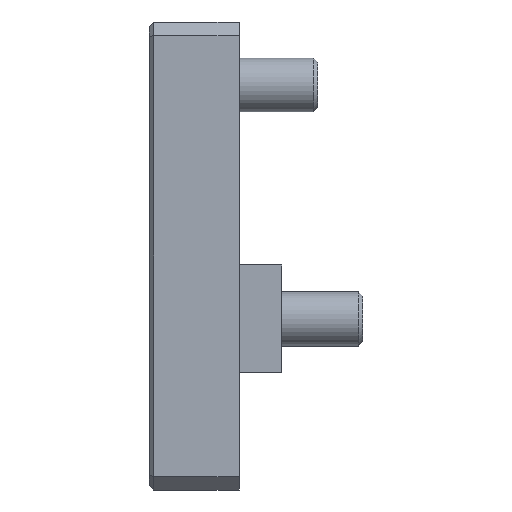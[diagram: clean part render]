
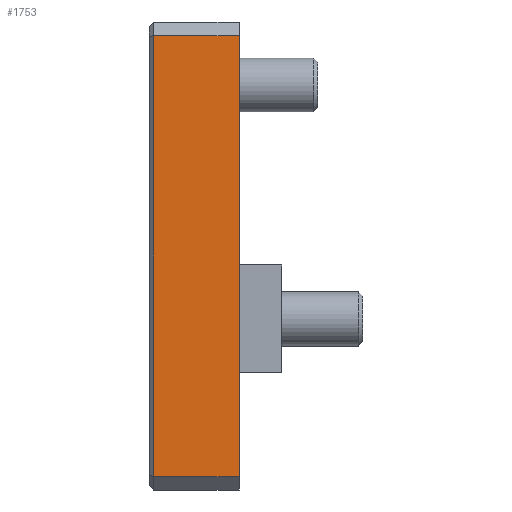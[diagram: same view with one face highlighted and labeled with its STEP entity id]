
A CAD part, left-side view. The second image highlights one B-rep face of the part: STEP entity #1753.
In plain terms, the highlighted planar face has unit normal (-1, 0, 0).
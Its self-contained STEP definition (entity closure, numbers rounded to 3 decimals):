
#242 = ORIENTED_EDGE ( 'NONE', *, *, #1908, .T. ) ;
#263 = LINE ( 'NONE', #2404, #741 ) ;
#575 = EDGE_CURVE ( 'NONE', #3859, #4363, #1701, .T. ) ;
#667 = VECTOR ( 'NONE', #4020, 1000. ) ;
#741 = VECTOR ( 'NONE', #3954, 1000. ) ;
#909 = PLANE ( 'NONE',  #3861 ) ;
#1088 = ORIENTED_EDGE ( 'NONE', *, *, #575, .T. ) ;
#1394 = LINE ( 'NONE', #2666, #3435 ) ;
#1475 = VERTEX_POINT ( 'NONE', #2324 ) ;
#1598 = CARTESIAN_POINT ( 'NONE',  ( -94.5, 19., 101. ) ) ;
#1679 = EDGE_CURVE ( 'NONE', #1475, #3859, #263, .T. ) ;
#1701 = LINE ( 'NONE', #2070, #667 ) ;
#1753 = ADVANCED_FACE ( 'NONE', ( #2919 ), #909, .F. ) ;
#1875 = EDGE_CURVE ( 'NONE', #3098, #1475, #1394, .T. ) ;
#1908 = EDGE_CURVE ( 'NONE', #4363, #3098, #4805, .T. ) ;
#2070 = CARTESIAN_POINT ( 'NONE',  ( -94.5, 20., 101. ) ) ;
#2324 = CARTESIAN_POINT ( 'NONE',  ( -94.5, 0., 3. ) ) ;
#2404 = CARTESIAN_POINT ( 'NONE',  ( -94.5, 0., 0. ) ) ;
#2666 = CARTESIAN_POINT ( 'NONE',  ( -94.5, 20., 3. ) ) ;
#2713 = EDGE_LOOP ( 'NONE', ( #1088, #242, #3476, #3588 ) ) ;
#2891 = DIRECTION ( 'NONE',  ( 0., 0., -1. ) ) ;
#2919 = FACE_OUTER_BOUND ( 'NONE', #2713, .T. ) ;
#3098 = VERTEX_POINT ( 'NONE', #3882 ) ;
#3435 = VECTOR ( 'NONE', #4435, 1000. ) ;
#3476 = ORIENTED_EDGE ( 'NONE', *, *, #1875, .T. ) ;
#3588 = ORIENTED_EDGE ( 'NONE', *, *, #1679, .T. ) ;
#3614 = DIRECTION ( 'NONE',  ( 1., 0., 0. ) ) ;
#3781 = CARTESIAN_POINT ( 'NONE',  ( -94.5, 19., 3. ) ) ;
#3794 = VECTOR ( 'NONE', #3829, 1000. ) ;
#3829 = DIRECTION ( 'NONE',  ( 0., 0., -1. ) ) ;
#3859 = VERTEX_POINT ( 'NONE', #4012 ) ;
#3861 = AXIS2_PLACEMENT_3D ( 'NONE', #4353, #3614, #2891 ) ;
#3882 = CARTESIAN_POINT ( 'NONE',  ( -94.5, 19., 3. ) ) ;
#3954 = DIRECTION ( 'NONE',  ( 0., 0., 1. ) ) ;
#4012 = CARTESIAN_POINT ( 'NONE',  ( -94.5, 0., 101. ) ) ;
#4020 = DIRECTION ( 'NONE',  ( 0., 1., 0. ) ) ;
#4353 = CARTESIAN_POINT ( 'NONE',  ( -94.5, 20., 0. ) ) ;
#4363 = VERTEX_POINT ( 'NONE', #1598 ) ;
#4435 = DIRECTION ( 'NONE',  ( 0., -1., 0. ) ) ;
#4805 = LINE ( 'NONE', #3781, #3794 ) ;
